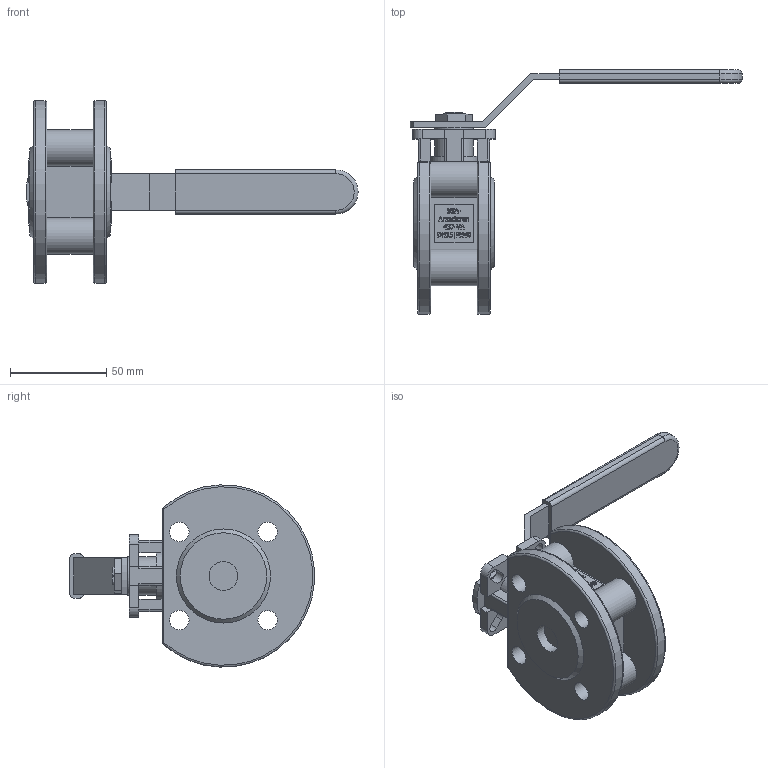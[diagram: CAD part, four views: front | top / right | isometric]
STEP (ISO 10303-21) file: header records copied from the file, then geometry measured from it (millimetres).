
FILE_DESCRIPTION((''),'2;1');
FILE_NAME('K:\Inventor\1 Artikel\12) Flanschen-Kugelhähne\12a) manuell\Econosto\437-VA, 7383\437-VA, DN15\437-VA, DN15, 3D\437-VA, DN15, PN40, HH, 3D.stp','2019-11-06T12:59:59',('claudia'),(''),'Autodesk Inventor 2013','Autodesk Inventor 2013','');
FILE_SCHEMA(('AUTOMOTIVE_DESIGN { 1 0 10303 214 1 1 1 1 }'));
Length unit declared in the file: millimetre
Products named in the file (1): Bauteil1
Bounding box: 172.92 x 127.43 x 94.89 mm (x, y, z)
Volume: 194324.5 mm3; surface area: 49331.8 mm2
Topology: 1 solids, 1 shells, 1235 faces, 3353 edges, 2222 vertices
Faces by surface type: plane 754, bspline 407, cylinder 58, sphere 8, torus 6, cone 2
Full cylindrical faces by diameter (mm): 10.106 x4, 15 x2, 20 x1, 26 x1
Entity records: 42448 total; most frequent: CARTESIAN_POINT 12913, ORIENTED_EDGE 6682, DIRECTION 4317, EDGE_CURVE 3341, VECTOR 2379, LINE 2379, VERTEX_POINT 2220, EDGE_LOOP 1371
